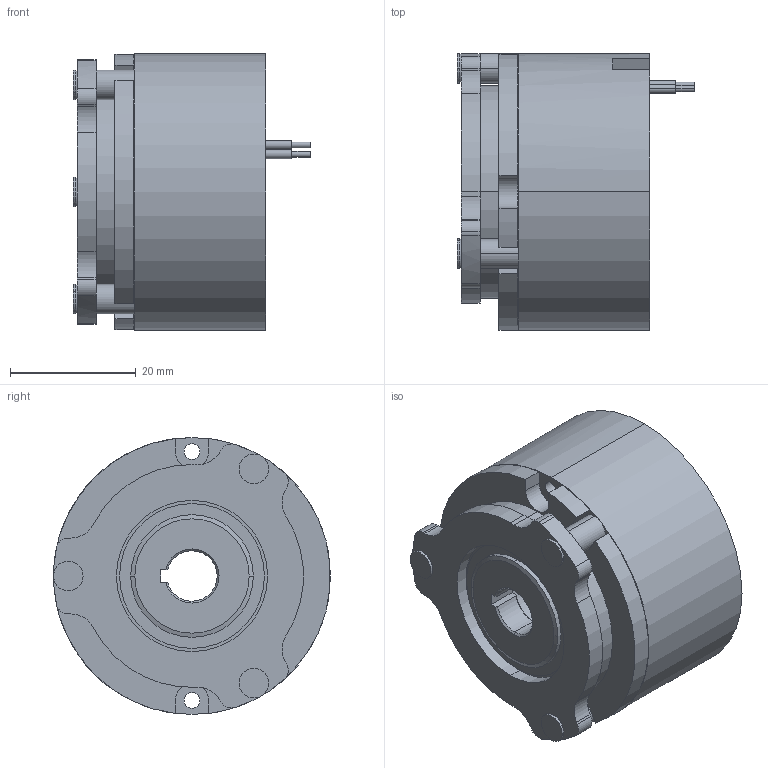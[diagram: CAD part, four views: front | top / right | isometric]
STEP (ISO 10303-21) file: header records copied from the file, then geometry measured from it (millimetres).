
FILE_DESCRIPTION (( 'STEP AP203' ), '1' );
FILE_NAME ('KS_10104A00_Customer_3D_model_19.12.17.STEP', '2018-01-16T13:49:22', ( '' ), ( '' ), 'SwSTEP 2.0', 'SolidWorks 2015', '' );
FILE_SCHEMA (( 'CONFIG_CONTROL_DESIGN' ));
Length unit declared in the file: millimetre
Products named in the file (1): KS_10104A00_Customer_3D_model_19.12.17
Bounding box: 37.68 x 44 x 44 mm (x, y, z)
Volume: 38615.8 mm3; surface area: 12240.6 mm2
Topology: 1 solids, 1 shells, 140 faces, 352 edges, 228 vertices
Faces by surface type: cylinder 82, plane 40, cone 16, bspline 2
Entity records: 4367 total; most frequent: DIRECTION 802, CARTESIAN_POINT 765, ORIENTED_EDGE 696, EDGE_CURVE 348, AXIS2_PLACEMENT_3D 321, VERTEX_POINT 228, CIRCLE 182, EDGE_LOOP 170
